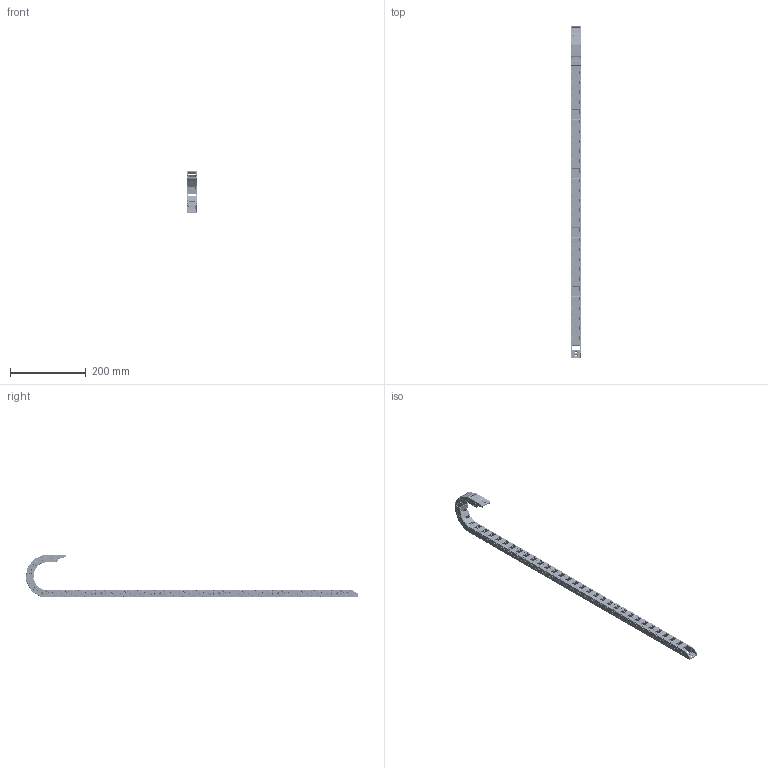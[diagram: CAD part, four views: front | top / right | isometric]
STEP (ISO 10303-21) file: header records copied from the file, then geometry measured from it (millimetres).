
FILE_DESCRIPTION(/* description */ (''),/* implementation_level */ '2;1');
FILE_NAME(/* name */ 'BFCK15x20R48.prt.stp',/* time_stamp */ '2022-11-17T13:08:44+08:00',/* author */ (''),/* organization */ (''),/* preprocessor_version */ 'ST-DEVELOPER v16',/* originating_system */ 'SIEMENS PLM Software NX 10.0',/* authorisation */ '');
FILE_SCHEMA (('CONFIG_CONTROL_DESIGN'));
Products named in the file (1): BFCK15x20R48
Bounding box: 28.96 x 877.69 x 113.2 mm (x, y, z)
Volume: 188938.1 mm3; surface area: 223423.1 mm2
Topology: 76 solids, 76 shells, 12070 faces, 30560 edges, 18096 vertices
Faces by surface type: cylinder 5198, plane 4135, torus 1009, sphere 903, bspline 706, cone 82, extrusion 37
Full cylindrical faces by diameter (mm): 6 x2, 6.05 x2, 6.058 x148
Entity records: 379100 total; most frequent: CARTESIAN_POINT 96113, DIRECTION 60352, ORIENTED_EDGE 58784, EDGE_CURVE 29392, AXIS2_PLACEMENT_3D 22271, VERTEX_POINT 17909, VECTOR 15810, LINE 15773
